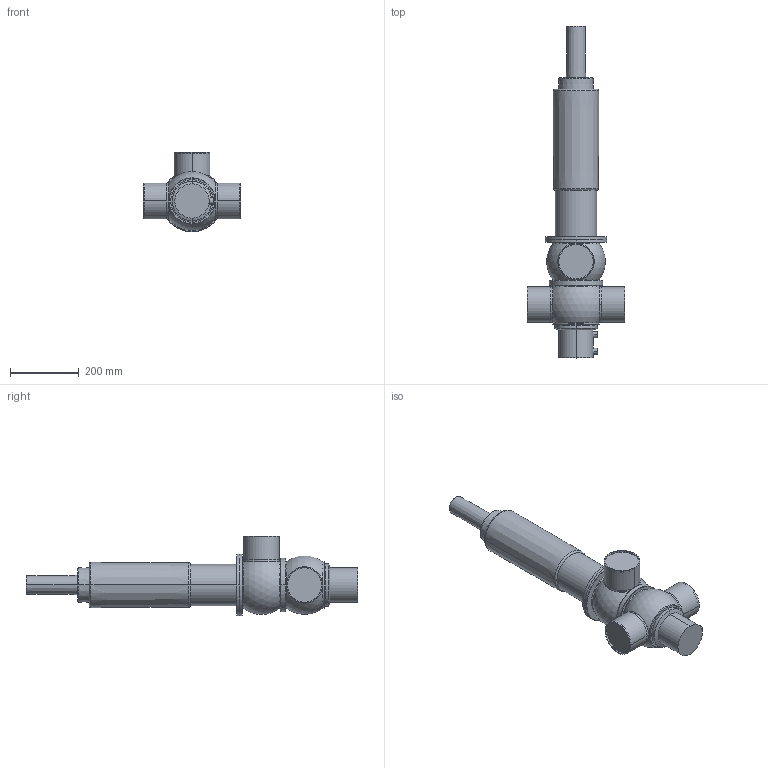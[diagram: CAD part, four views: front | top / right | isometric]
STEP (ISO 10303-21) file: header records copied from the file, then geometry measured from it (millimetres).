
FILE_DESCRIPTION(('Creo Elements/Direct Modeling STEP Export'),'2;1');
FILE_NAME('DA43-100_prox..stp','2020-07-28T12:01:23',(''),(''),'Creo Elements/Direct Modeling STEP processor for AP214 (Solid Model)','Creo Elements/Direct Modeling 19.0F 14-Feb-2017 (C) Parametric Technology GmbH','');
FILE_SCHEMA(('AUTOMOTIVE_DESIGN { 1 0 10303 214 1 1 1 1 }'));
Length unit declared in the file: millimetre
Products named in the file (5): actuator_DA4-125_yoke; D4_Prox._holder.; drain_pipe_92; housing_DA43-100; DA43-100_prox.
Assembly tree (4 placements, depth 2):
  DA43-100_prox.
    housing_DA43-100
    drain_pipe_92
    D4_Prox._holder.
    actuator_DA4-125_yoke
Bounding box: 285 x 968.5 x 232.5 mm (x, y, z)
Volume: 13815095.9 mm3; surface area: 614021.5 mm2
Topology: 4 solids, 4 shells, 123 faces, 265 edges, 163 vertices
Faces by surface type: cylinder 44, torus 36, plane 26, cone 12, sphere 5
Entity records: 3931 total; most frequent: CARTESIAN_POINT 1336, DIRECTION 526, ORIENTED_EDGE 526, EDGE_CURVE 263, AXIS2_PLACEMENT_3D 235, VERTEX_POINT 163, EDGE_LOOP 138, FACE_OUTER_BOUND 123
